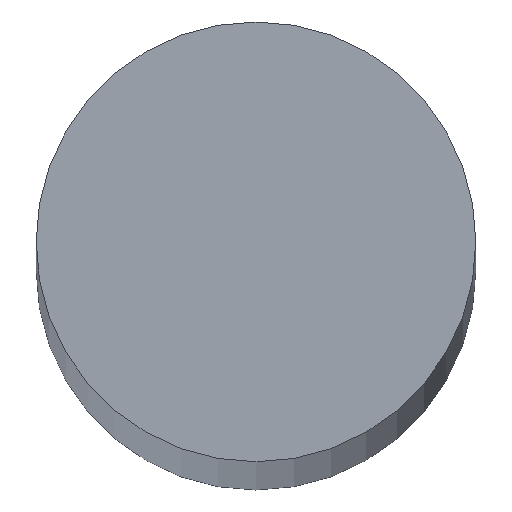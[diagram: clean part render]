
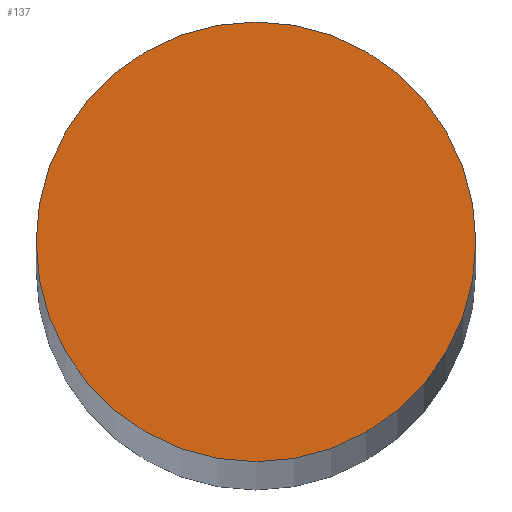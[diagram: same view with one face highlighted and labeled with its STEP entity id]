
A CAD part, top view. The second image highlights one B-rep face of the part: STEP entity #137.
In plain terms, the highlighted planar face has unit normal (0, 0, 1).
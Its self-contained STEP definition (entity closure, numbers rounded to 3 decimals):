
#5 = ORIENTED_EDGE ( 'NONE', *, *, #53, .T. ) ;
#6 = ORIENTED_EDGE ( 'NONE', *, *, #54, .T. ) ;
#15 = EDGE_LOOP ( 'NONE', ( #6, #5 ) ) ;
#25 = FACE_OUTER_BOUND ( 'NONE', #15, .T. ) ;
#26 = CIRCLE ( 'NONE', #56, 6. ) ;
#28 = CIRCLE ( 'NONE', #67, 6. ) ;
#52 = VERTEX_POINT ( 'NONE', #78 ) ;
#53 = EDGE_CURVE ( 'NONE', #52, #77, #26, .T. ) ;
#54 = EDGE_CURVE ( 'NONE', #77, #52, #28, .T. ) ;
#56 = AXIS2_PLACEMENT_3D ( 'NONE', #86, #88, #89 ) ;
#61 = AXIS2_PLACEMENT_3D ( 'NONE', #109, #112, #113 ) ;
#67 = AXIS2_PLACEMENT_3D ( 'NONE', #90, #92, #93 ) ;
#77 = VERTEX_POINT ( 'NONE', #91 ) ;
#78 = CARTESIAN_POINT ( 'NONE',  ( 6., 0., 221. ) ) ;
#86 = CARTESIAN_POINT ( 'NONE',  ( 0., 0., 221. ) ) ;
#88 = DIRECTION ( 'NONE',  ( 0., 0., 1. ) ) ;
#89 = DIRECTION ( 'NONE',  ( 1., 0., 0. ) ) ;
#90 = CARTESIAN_POINT ( 'NONE',  ( 0., 0., 221. ) ) ;
#91 = CARTESIAN_POINT ( 'NONE',  ( -6., 0., 221. ) ) ;
#92 = DIRECTION ( 'NONE',  ( 0., 0., 1. ) ) ;
#93 = DIRECTION ( 'NONE',  ( 1., 0., 0. ) ) ;
#109 = CARTESIAN_POINT ( 'NONE',  ( 0., 0., 221. ) ) ;
#110 = PLANE ( 'NONE',  #61 ) ;
#112 = DIRECTION ( 'NONE',  ( 0., 0., 1. ) ) ;
#113 = DIRECTION ( 'NONE',  ( 1., 0., 0. ) ) ;
#137 = ADVANCED_FACE ( 'NONE', ( #25 ), #110, .T. ) ;
